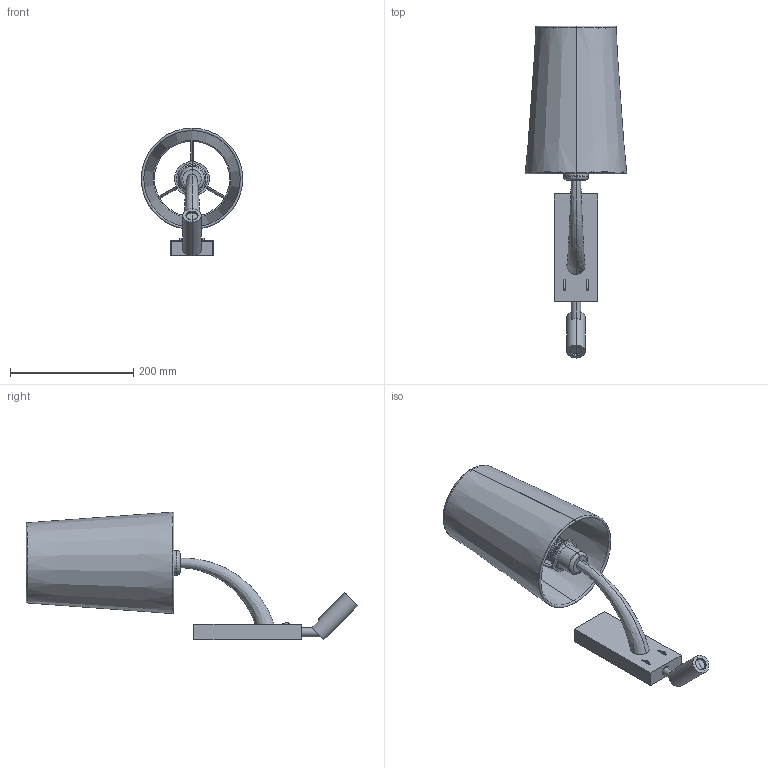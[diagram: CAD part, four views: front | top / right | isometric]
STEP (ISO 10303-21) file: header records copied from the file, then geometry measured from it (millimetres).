
FILE_DESCRIPTION(/* description */ (''),/* implementation_level */ '2;1');
FILE_NAME(/* name */ 'C:\Users\FrancoSartori\Documents\FARO\01_En Proceso\00_REM\03_Publicación\29682-21.stp',/* time_stamp */ '2021-07-07T12:35:50+02:00',/* author */ ('FrancoSartori'),/* organization */ (''),/* preprocessor_version */ 'ST-DEVELOPER v18.1',/* originating_system */ 'AutoCAD Mechanical',/* authorisation */ '');
FILE_SCHEMA (('AUTOMOTIVE_DESIGN { 1 0 10303 214 3 1 1 }'));
Length unit declared in the file: millimetre
Products named in the file (3): Product; 29682_ 29683_ - structure-571628-_3D_; 2P031X - 2P0111 White textile shade-571629-_3D_
Assembly tree (2 placements, depth 2):
  Product
    29682_ 29683_ - structure-571628-_3D_
    2P031X - 2P0111 White textile shade-571629-_3D_
Bounding box: 164.71 x 538.74 x 207.36 mm (x, y, z)
Volume: 432906.3 mm3; surface area: 566224 mm2
Topology: 15 solids, 15 shells, 288 faces, 604 edges, 339 vertices
Faces by surface type: plane 152, cylinder 104, torus 18, cone 8, sphere 4, bspline 2
Entity records: 9192 total; most frequent: CARTESIAN_POINT 2943, DIRECTION 1347, ORIENTED_EDGE 1204, EDGE_CURVE 602, AXIS2_PLACEMENT_3D 507, VERTEX_POINT 339, LINE 333, VECTOR 333
